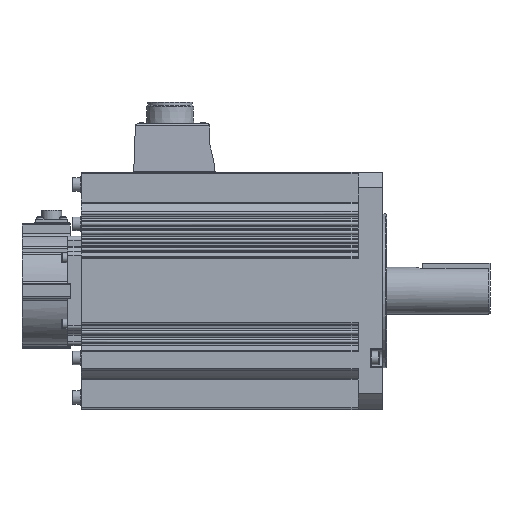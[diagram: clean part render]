
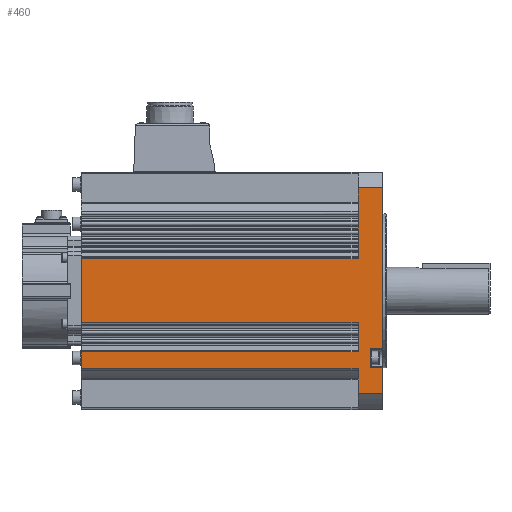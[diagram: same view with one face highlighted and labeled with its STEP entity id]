
A CAD part, top view. The second image highlights one B-rep face of the part: STEP entity #460.
In plain terms, the highlighted planar face has unit normal (0, 0, 1).
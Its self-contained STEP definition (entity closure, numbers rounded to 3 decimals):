
#460 = ADVANCED_FACE( '', ( #1569 ), #1570, .F. );
#1569 = FACE_OUTER_BOUND( '', #3022, .T. );
#1570 = PLANE( '', #3023 );
#3022 = EDGE_LOOP( '', ( #6460, #6461, #6462, #6463, #6464, #6465, #6466, #6467, #6468, #6469, #6470, #6471, #6472, #6473, #6474, #6475, #6476, #6477, #6478, #6479, #6480, #6481, #6482 ) );
#3023 = AXIS2_PLACEMENT_3D( '', #6483, #6484, #6485 );
#6460 = ORIENTED_EDGE( '', *, *, #8193, .F. );
#6461 = ORIENTED_EDGE( '', *, *, #9045, .F. );
#6462 = ORIENTED_EDGE( '', *, *, #8211, .T. );
#6463 = ORIENTED_EDGE( '', *, *, #9057, .F. );
#6464 = ORIENTED_EDGE( '', *, *, #9069, .F. );
#6465 = ORIENTED_EDGE( '', *, *, #9070, .T. );
#6466 = ORIENTED_EDGE( '', *, *, #9071, .T. );
#6467 = ORIENTED_EDGE( '', *, *, #9072, .T. );
#6468 = ORIENTED_EDGE( '', *, *, #9073, .T. );
#6469 = ORIENTED_EDGE( '', *, *, #9074, .T. );
#6470 = ORIENTED_EDGE( '', *, *, #9075, .T. );
#6471 = ORIENTED_EDGE( '', *, *, #9076, .T. );
#6472 = ORIENTED_EDGE( '', *, *, #8888, .T. );
#6473 = ORIENTED_EDGE( '', *, *, #9077, .F. );
#6474 = ORIENTED_EDGE( '', *, *, #9078, .T. );
#6475 = ORIENTED_EDGE( '', *, *, #9079, .T. );
#6476 = ORIENTED_EDGE( '', *, *, #9080, .T. );
#6477 = ORIENTED_EDGE( '', *, *, #9081, .T. );
#6478 = ORIENTED_EDGE( '', *, *, #9036, .T. );
#6479 = ORIENTED_EDGE( '', *, *, #9082, .F. );
#6480 = ORIENTED_EDGE( '', *, *, #9083, .T. );
#6481 = ORIENTED_EDGE( '', *, *, #9084, .T. );
#6482 = ORIENTED_EDGE( '', *, *, #9058, .F. );
#6483 = CARTESIAN_POINT( '', ( -18., 23.917, 88. ) );
#6484 = DIRECTION( '', ( 0., 0., -1. ) );
#6485 = DIRECTION( '', ( -1., 0., 0. ) );
#8193 = EDGE_CURVE( '', #9753, #9749, #9755, .T. );
#8211 = EDGE_CURVE( '', #9782, #9780, #9783, .T. );
#8888 = EDGE_CURVE( '', #10925, #10923, #10926, .T. );
#9036 = EDGE_CURVE( '', #11221, #11219, #11222, .T. );
#9045 = EDGE_CURVE( '', #9782, #9753, #11235, .T. );
#9057 = EDGE_CURVE( '', #11255, #9780, #11257, .T. );
#9058 = EDGE_CURVE( '', #9749, #11258, #11259, .T. );
#9069 = EDGE_CURVE( '', #11276, #11255, #11277, .T. );
#9070 = EDGE_CURVE( '', #11276, #11278, #11279, .T. );
#9071 = EDGE_CURVE( '', #11278, #11280, #11281, .T. );
#9072 = EDGE_CURVE( '', #11280, #11282, #11283, .T. );
#9073 = EDGE_CURVE( '', #11282, #11284, #11285, .T. );
#9074 = EDGE_CURVE( '', #11284, #11286, #11287, .T. );
#9075 = EDGE_CURVE( '', #11286, #11288, #11289, .T. );
#9076 = EDGE_CURVE( '', #11288, #10925, #11290, .T. );
#9077 = EDGE_CURVE( '', #11291, #10923, #11292, .T. );
#9078 = EDGE_CURVE( '', #11291, #11293, #11294, .T. );
#9079 = EDGE_CURVE( '', #11293, #11295, #11296, .T. );
#9080 = EDGE_CURVE( '', #11295, #11297, #11298, .T. );
#9081 = EDGE_CURVE( '', #11297, #11221, #11299, .T. );
#9082 = EDGE_CURVE( '', #11300, #11219, #11301, .T. );
#9083 = EDGE_CURVE( '', #11300, #11302, #11303, .T. );
#9084 = EDGE_CURVE( '', #11302, #11258, #11304, .T. );
#9749 = VERTEX_POINT( '', #12519 );
#9753 = VERTEX_POINT( '', #12524 );
#9755 = LINE( '', #12526, #12527 );
#9780 = VERTEX_POINT( '', #12568 );
#9782 = VERTEX_POINT( '', #12570 );
#9783 = LINE( '', #12571, #12572 );
#10923 = VERTEX_POINT( '', #14146 );
#10925 = VERTEX_POINT( '', #14148 );
#10926 = LINE( '', #14149, #14150 );
#11219 = VERTEX_POINT( '', #14496 );
#11221 = VERTEX_POINT( '', #14498 );
#11222 = LINE( '', #14499, #14500 );
#11235 = LINE( '', #14518, #14519 );
#11255 = VERTEX_POINT( '', #14543 );
#11257 = LINE( '', #14545, #14546 );
#11258 = VERTEX_POINT( '', #14547 );
#11259 = LINE( '', #14548, #14549 );
#11276 = VERTEX_POINT( '', #14574 );
#11277 = LINE( '', #14575, #14576 );
#11278 = VERTEX_POINT( '', #14577 );
#11279 = LINE( '', #14578, #14579 );
#11280 = VERTEX_POINT( '', #14580 );
#11281 = LINE( '', #14581, #14582 );
#11282 = VERTEX_POINT( '', #14583 );
#11283 = LINE( '', #14584, #14585 );
#11284 = VERTEX_POINT( '', #14586 );
#11285 = LINE( '', #14587, #14588 );
#11286 = VERTEX_POINT( '', #14589 );
#11287 = LINE( '', #14590, #14591 );
#11288 = VERTEX_POINT( '', #14592 );
#11289 = LINE( '', #14593, #14594 );
#11290 = LINE( '', #14595, #14596 );
#11291 = VERTEX_POINT( '', #14597 );
#11292 = LINE( '', #14598, #14599 );
#11293 = VERTEX_POINT( '', #14600 );
#11294 = LINE( '', #14601, #14602 );
#11295 = VERTEX_POINT( '', #14603 );
#11296 = LINE( '', #14604, #14605 );
#11297 = VERTEX_POINT( '', #14606 );
#11298 = LINE( '', #14607, #14608 );
#11299 = LINE( '', #14609, #14610 );
#11300 = VERTEX_POINT( '', #14611 );
#11301 = LINE( '', #14612, #14613 );
#11302 = VERTEX_POINT( '', #14614 );
#11303 = LINE( '', #14615, #14616 );
#11304 = LINE( '', #14617, #14618 );
#12519 = CARTESIAN_POINT( '', ( 0., -57., 88. ) );
#12524 = CARTESIAN_POINT( '', ( -9., -57., 88. ) );
#12526 = CARTESIAN_POINT( '', ( -9., -57., 88. ) );
#12527 = VECTOR( '', #15616, 1000. );
#12568 = CARTESIAN_POINT( '', ( 0., -43., 88. ) );
#12570 = CARTESIAN_POINT( '', ( -9., -43., 88. ) );
#12571 = CARTESIAN_POINT( '', ( -9., -43., 88. ) );
#12572 = VECTOR( '', #15647, 1000. );
#14146 = CARTESIAN_POINT( '', ( -223.5, -23.918, 88. ) );
#14148 = CARTESIAN_POINT( '', ( -223.5, 23.917, 88. ) );
#14149 = CARTESIAN_POINT( '', ( -223.5, 23.917, 88. ) );
#14150 = VECTOR( '', #16784, 1000. );
#14496 = CARTESIAN_POINT( '', ( -223.5, -57.803, 88. ) );
#14498 = CARTESIAN_POINT( '', ( -223.5, -45.423, 88. ) );
#14499 = CARTESIAN_POINT( '', ( -223.5, -45.423, 88. ) );
#14500 = VECTOR( '', #17120, 1000. );
#14518 = CARTESIAN_POINT( '', ( -9., 23.917, 88. ) );
#14519 = VECTOR( '', #17135, 1000. );
#14543 = CARTESIAN_POINT( '', ( 0., 76.343, 88. ) );
#14545 = CARTESIAN_POINT( '', ( 0., 76.343, 88. ) );
#14546 = VECTOR( '', #17161, 1000. );
#14547 = CARTESIAN_POINT( '', ( 0., -76.343, 88. ) );
#14548 = CARTESIAN_POINT( '', ( 0., 76.343, 88. ) );
#14549 = VECTOR( '', #17162, 1000. );
#14574 = CARTESIAN_POINT( '', ( -18., 76.343, 88. ) );
#14575 = CARTESIAN_POINT( '', ( -18., 76.343, 88. ) );
#14576 = VECTOR( '', #17177, 1000. );
#14577 = CARTESIAN_POINT( '', ( -18., 57.563, 88. ) );
#14578 = CARTESIAN_POINT( '', ( -18., 76.343, 88. ) );
#14579 = VECTOR( '', #17178, 1000. );
#14580 = CARTESIAN_POINT( '', ( -18., 49.829, 88. ) );
#14581 = CARTESIAN_POINT( '', ( -18., 76.343, 88. ) );
#14582 = VECTOR( '', #17179, 1000. );
#14583 = CARTESIAN_POINT( '', ( -18., 43.349, 88. ) );
#14584 = CARTESIAN_POINT( '', ( -18., 76.343, 88. ) );
#14585 = VECTOR( '', #17180, 1000. );
#14586 = CARTESIAN_POINT( '', ( -18., 36.873, 88. ) );
#14587 = CARTESIAN_POINT( '', ( -18., 76.343, 88. ) );
#14588 = VECTOR( '', #17181, 1000. );
#14589 = CARTESIAN_POINT( '', ( -18., 30.893, 88. ) );
#14590 = CARTESIAN_POINT( '', ( -18., 76.343, 88. ) );
#14591 = VECTOR( '', #17182, 1000. );
#14592 = CARTESIAN_POINT( '', ( -18., 23.917, 88. ) );
#14593 = CARTESIAN_POINT( '', ( -18., 76.343, 88. ) );
#14594 = VECTOR( '', #17183, 1000. );
#14595 = CARTESIAN_POINT( '', ( -18., 23.917, 88. ) );
#14596 = VECTOR( '', #17184, 1000. );
#14597 = CARTESIAN_POINT( '', ( -18., -23.918, 88. ) );
#14598 = CARTESIAN_POINT( '', ( -18., -23.918, 88. ) );
#14599 = VECTOR( '', #17185, 1000. );
#14600 = CARTESIAN_POINT( '', ( -18., -30.895, 88. ) );
#14601 = CARTESIAN_POINT( '', ( -18., 76.343, 88. ) );
#14602 = VECTOR( '', #17186, 1000. );
#14603 = CARTESIAN_POINT( '', ( -18., -37.373, 88. ) );
#14604 = CARTESIAN_POINT( '', ( -18., 76.343, 88. ) );
#14605 = VECTOR( '', #17187, 1000. );
#14606 = CARTESIAN_POINT( '', ( -18., -45.423, 88. ) );
#14607 = CARTESIAN_POINT( '', ( -18., 76.343, 88. ) );
#14608 = VECTOR( '', #17188, 1000. );
#14609 = CARTESIAN_POINT( '', ( -18., -45.423, 88. ) );
#14610 = VECTOR( '', #17189, 1000. );
#14611 = CARTESIAN_POINT( '', ( -18., -57.803, 88. ) );
#14612 = CARTESIAN_POINT( '', ( -18., -57.803, 88. ) );
#14613 = VECTOR( '', #17190, 1000. );
#14614 = CARTESIAN_POINT( '', ( -18., -76.343, 88. ) );
#14615 = CARTESIAN_POINT( '', ( -18., 76.343, 88. ) );
#14616 = VECTOR( '', #17191, 1000. );
#14617 = CARTESIAN_POINT( '', ( -18., -76.343, 88. ) );
#14618 = VECTOR( '', #17192, 1000. );
#15616 = DIRECTION( '', ( 1., 0., 0. ) );
#15647 = DIRECTION( '', ( 1., 0., 0. ) );
#16784 = DIRECTION( '', ( 0., -1., 0. ) );
#17120 = DIRECTION( '', ( 0., -1., 0. ) );
#17135 = DIRECTION( '', ( 0., -1., 0. ) );
#17161 = DIRECTION( '', ( 0., -1., 0. ) );
#17162 = DIRECTION( '', ( 0., -1., 0. ) );
#17177 = DIRECTION( '', ( 1., 0., 0. ) );
#17178 = DIRECTION( '', ( 0., -1., 0. ) );
#17179 = DIRECTION( '', ( 0., -1., 0. ) );
#17180 = DIRECTION( '', ( 0., -1., 0. ) );
#17181 = DIRECTION( '', ( 0., -1., 0. ) );
#17182 = DIRECTION( '', ( 0., -1., 0. ) );
#17183 = DIRECTION( '', ( 0., -1., 0. ) );
#17184 = DIRECTION( '', ( -1., 0., 0. ) );
#17185 = DIRECTION( '', ( -1., 0., 0. ) );
#17186 = DIRECTION( '', ( 0., -1., 0. ) );
#17187 = DIRECTION( '', ( 0., -1., 0. ) );
#17188 = DIRECTION( '', ( 0., -1., 0. ) );
#17189 = DIRECTION( '', ( -1., 0., 0. ) );
#17190 = DIRECTION( '', ( -1., 0., 0. ) );
#17191 = DIRECTION( '', ( 0., -1., 0. ) );
#17192 = DIRECTION( '', ( 1., 0., 0. ) );
